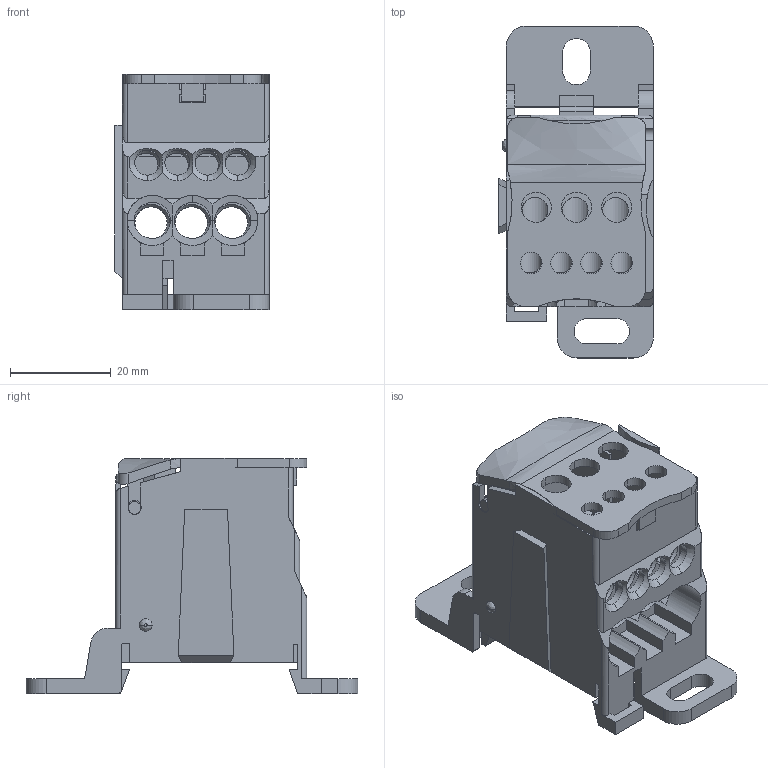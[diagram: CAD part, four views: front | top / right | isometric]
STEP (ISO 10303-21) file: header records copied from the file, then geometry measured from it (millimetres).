
FILE_DESCRIPTION(/* description */ (''),/* implementation_level */ '2;1');
FILE_NAME(/* name */ '8.stp',/* time_stamp */ '2019-06-12T23:47:15+08:00',/* author */ (''),/* organization */ (''),/* preprocessor_version */ 'ST-DEVELOPER v16.7',/* originating_system */ 'SIEMENS PLM Software NX 12.0',/* authorisation */ '');
FILE_SCHEMA (('AUTOMOTIVE_DESIGN { 1 0 10303 214 3 1 1 1 }'));
Length unit declared in the file: millimetre
Products named in the file (1): Admi32AC5160z43p
Bounding box: 30.7 x 66 x 46.9 mm (x, y, z)
Volume: 21184.7 mm3; surface area: 22250.8 mm2
Topology: 3 solids, 3 shells, 414 faces, 1270 edges, 842 vertices
Faces by surface type: plane 228, cylinder 143, cone 34, bspline 8, torus 1
Entity records: 16917 total; most frequent: CARTESIAN_POINT 3440, ORIENTED_EDGE 2540, DIRECTION 2367, EDGE_CURVE 1270, VERTEX_POINT 842, AXIS2_PLACEMENT_3D 795, LINE 777, VECTOR 777
